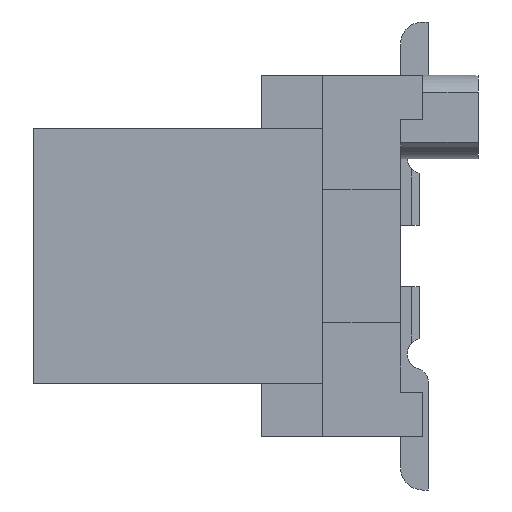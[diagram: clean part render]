
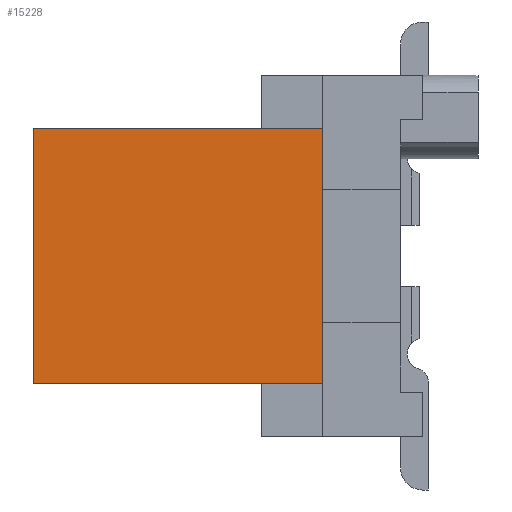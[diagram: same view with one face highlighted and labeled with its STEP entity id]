
A CAD part, left-side view. The second image highlights one B-rep face of the part: STEP entity #15228.
In plain terms, the highlighted planar face has unit normal (-1, 0, 0).
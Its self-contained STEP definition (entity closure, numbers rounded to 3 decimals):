
#413 = LINE ( 'NONE', #5905, #2561 ) ;
#897 = VERTEX_POINT ( 'NONE', #18097 ) ;
#920 = DIRECTION ( 'NONE',  ( 0., 0., 1. ) ) ;
#1081 = CARTESIAN_POINT ( 'NONE',  ( 1.944, -0.529, -0.475 ) ) ;
#2324 = LINE ( 'NONE', #1081, #20860 ) ;
#2561 = VECTOR ( 'NONE', #12755, 1000. ) ;
#2713 = FACE_OUTER_BOUND ( 'NONE', #18000, .T. ) ;
#2851 = LINE ( 'NONE', #4200, #15612 ) ;
#3224 = VERTEX_POINT ( 'NONE', #17348 ) ;
#3943 = CARTESIAN_POINT ( 'NONE',  ( 1.944, -0.529, -2.775 ) ) ;
#4200 = CARTESIAN_POINT ( 'NONE',  ( 1.944, 1.521, -2.775 ) ) ;
#5019 = CARTESIAN_POINT ( 'NONE',  ( 1.944, -1.079, -0.475 ) ) ;
#5112 = VERTEX_POINT ( 'NONE', #11223 ) ;
#5905 = CARTESIAN_POINT ( 'NONE',  ( 1.944, -1.079, -2.775 ) ) ;
#6896 = EDGE_CURVE ( 'NONE', #3224, #5112, #15924, .T. ) ;
#7942 = CARTESIAN_POINT ( 'NONE',  ( 1.944, -0.529, -2.775 ) ) ;
#8171 = DIRECTION ( 'NONE',  ( 0., 1., 0. ) ) ;
#9612 = VERTEX_POINT ( 'NONE', #5019 ) ;
#10520 = VECTOR ( 'NONE', #8171, 1000. ) ;
#11223 = CARTESIAN_POINT ( 'NONE',  ( 1.944, 1.521, -2.775 ) ) ;
#12227 = EDGE_CURVE ( 'NONE', #9612, #897, #2324, .T. ) ;
#12755 = DIRECTION ( 'NONE',  ( 0., 0., -1. ) ) ;
#14280 = PLANE ( 'NONE',  #14823 ) ;
#14555 = DIRECTION ( 'NONE',  ( 0., 1., 0. ) ) ;
#14609 = ORIENTED_EDGE ( 'NONE', *, *, #6896, .F. ) ;
#14823 = AXIS2_PLACEMENT_3D ( 'NONE', #3943, #19662, #920 ) ;
#15228 = ADVANCED_FACE ( 'NONE', ( #2713 ), #14280, .T. ) ;
#15612 = VECTOR ( 'NONE', #21378, 1000. ) ;
#15924 = LINE ( 'NONE', #7942, #10520 ) ;
#15985 = ORIENTED_EDGE ( 'NONE', *, *, #12227, .T. ) ;
#17156 = ORIENTED_EDGE ( 'NONE', *, *, #18866, .F. ) ;
#17348 = CARTESIAN_POINT ( 'NONE',  ( 1.944, -1.079, -2.775 ) ) ;
#18000 = EDGE_LOOP ( 'NONE', ( #17156, #14609, #19769, #15985 ) ) ;
#18097 = CARTESIAN_POINT ( 'NONE',  ( 1.944, 1.521, -0.475 ) ) ;
#18866 = EDGE_CURVE ( 'NONE', #5112, #897, #2851, .T. ) ;
#19662 = DIRECTION ( 'NONE',  ( -1., 0., 0. ) ) ;
#19769 = ORIENTED_EDGE ( 'NONE', *, *, #22106, .F. ) ;
#20860 = VECTOR ( 'NONE', #14555, 1000. ) ;
#21378 = DIRECTION ( 'NONE',  ( 0., 0., 1. ) ) ;
#22106 = EDGE_CURVE ( 'NONE', #9612, #3224, #413, .T. ) ;
